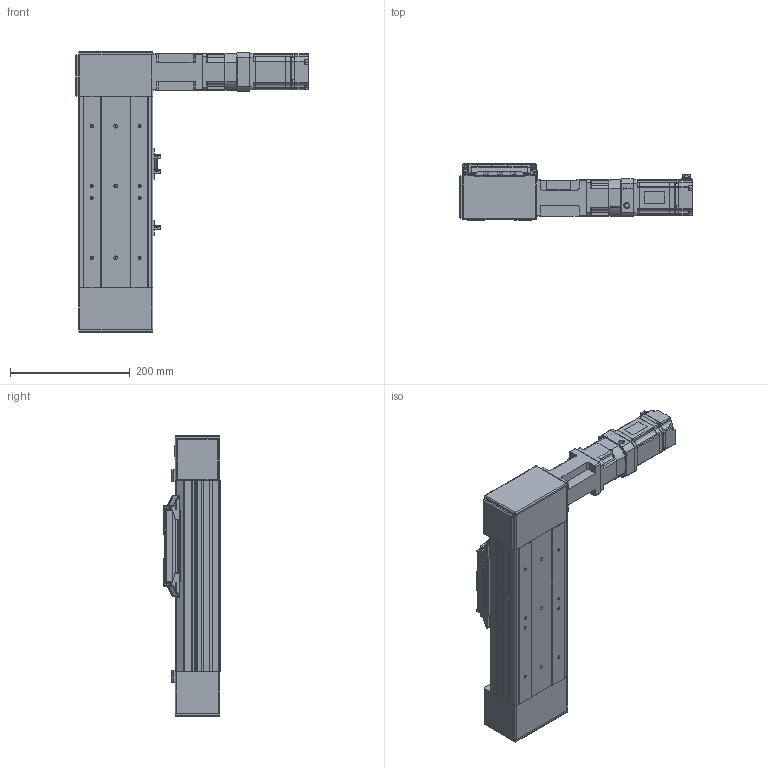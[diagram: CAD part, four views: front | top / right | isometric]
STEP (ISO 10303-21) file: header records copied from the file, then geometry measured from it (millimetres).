
FILE_DESCRIPTION (( 'STEP AP203' ), '1' );
FILE_NAME ('PCB120SRN-0000-ST100-40NR00-N-I3R.STEP', '2015-10-21T01:20:08', ( '' ), ( '' ), 'SwSTEP 2.0', 'SolidWorks 2012', '' );
FILE_SCHEMA (( 'CONFIG_CONTROL_DESIGN' ));
Length unit declared in the file: millimetre
Products named in the file (14): PCB120SRN-0000-ST100-40NR00-N-I3R; sgmjv_04a_a21; jc32c; EE_SX672; PGX62-H-1_3; PCB120-Motor Bracket; PCB120-Carrier Assy; PCB120-Carrier; PCB120-Carrier UPPER COVER; PCB120-Sensor Dog; PCB120-Carrier END COVER; PCB120-Idler Pulley Block; PCB120-Drive Pulley Block S; PCB120-BASE 100ST
Assembly tree (16 placements, depth 3):
  PCB120SRN-0000-ST100-40NR00-N-I3R
    PCB120-BASE 100ST
    PCB120-Drive Pulley Block S
    PCB120-Idler Pulley Block
    PCB120-Carrier Assy
      PCB120-Carrier
      PCB120-Carrier UPPER COVER
      PCB120-Carrier END COVER  x2
      PCB120-Sensor Dog
    EE_SX672  x3
    PCB120-Motor Bracket
    PGX62-H-1_3
    sgmjv_04a_a21
    jc32c
Bounding box: 389.6 x 94.26 x 470 mm (x, y, z)
Volume: 4798312.5 mm3; surface area: 726872 mm2
Topology: 38 solids, 39 shells, 3003 faces, 7888 edges, 5019 vertices
Faces by surface type: plane 1669, cylinder 960, cone 212, bspline 130, sphere 32
Entity records: 86083 total; most frequent: CARTESIAN_POINT 20870, ORIENTED_EDGE 13392, DIRECTION 13062, EDGE_CURVE 6698, LINE 4410, VECTOR 4410, AXIS2_PLACEMENT_3D 4326, VERTEX_POINT 4325
